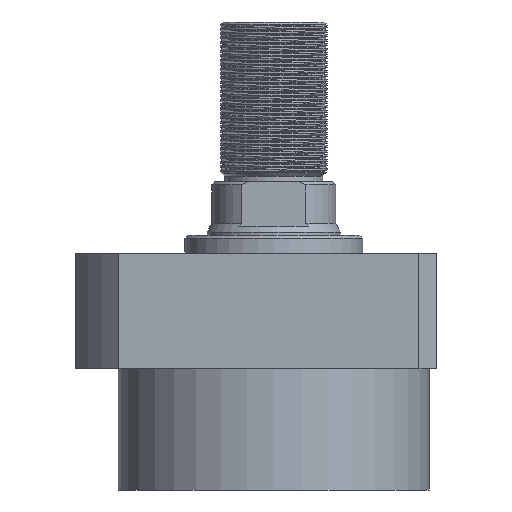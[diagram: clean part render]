
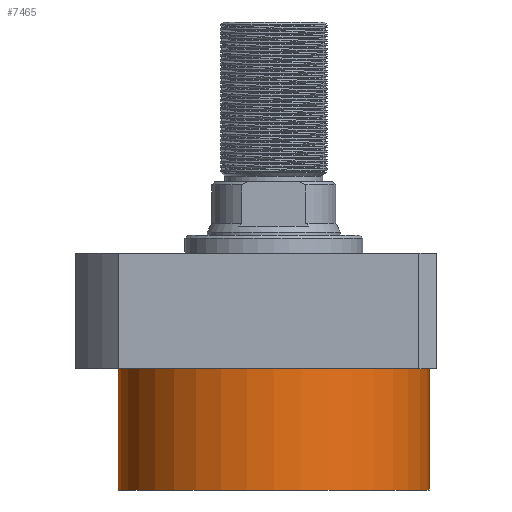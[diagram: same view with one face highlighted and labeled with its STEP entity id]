
A CAD part, front view. The second image highlights one B-rep face of the part: STEP entity #7465.
In plain terms, the highlighted cylindrical face has radius 52.5 mm (diameter 105 mm), a partial arc.
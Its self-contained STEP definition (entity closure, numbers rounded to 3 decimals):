
#124 = ORIENTED_EDGE ( 'NONE', *, *, #215, .F. ) ;
#215 = EDGE_CURVE ( 'NONE', #5201, #595, #2599, .T. ) ;
#497 = VECTOR ( 'NONE', #2406, 1000. ) ;
#545 = DIRECTION ( 'NONE',  ( 0., 0., 1. ) ) ;
#595 = VERTEX_POINT ( 'NONE', #711 ) ;
#623 = EDGE_CURVE ( 'NONE', #5201, #2450, #7223, .T. ) ;
#711 = CARTESIAN_POINT ( 'NONE',  ( -52.5, 0., -60.5 ) ) ;
#1198 = CARTESIAN_POINT ( 'NONE',  ( 52.5, 0., -60.5 ) ) ;
#1248 = CARTESIAN_POINT ( 'NONE',  ( 52.5, 0., -60.5 ) ) ;
#1276 = ORIENTED_EDGE ( 'NONE', *, *, #623, .T. ) ;
#1302 = CARTESIAN_POINT ( 'NONE',  ( 0., 0., -19.5 ) ) ;
#1544 = EDGE_LOOP ( 'NONE', ( #4661, #124, #1276, #6211 ) ) ;
#1602 = FACE_OUTER_BOUND ( 'NONE', #1544, .T. ) ;
#1919 = DIRECTION ( 'NONE',  ( 1., 0., 0. ) ) ;
#2294 = VECTOR ( 'NONE', #545, 1000. ) ;
#2406 = DIRECTION ( 'NONE',  ( 0., 0., 1. ) ) ;
#2450 = VERTEX_POINT ( 'NONE', #7473 ) ;
#2599 = CIRCLE ( 'NONE', #7534, 52.5 ) ;
#2802 = DIRECTION ( 'NONE',  ( 0., 0., 1. ) ) ;
#3234 = VERTEX_POINT ( 'NONE', #4821 ) ;
#3264 = EDGE_CURVE ( 'NONE', #595, #3234, #3981, .T. ) ;
#3443 = CARTESIAN_POINT ( 'NONE',  ( 0., 0., -60.5 ) ) ;
#3756 = AXIS2_PLACEMENT_3D ( 'NONE', #3443, #2802, #6544 ) ;
#3981 = LINE ( 'NONE', #4795, #497 ) ;
#4661 = ORIENTED_EDGE ( 'NONE', *, *, #3264, .F. ) ;
#4684 = CYLINDRICAL_SURFACE ( 'NONE', #3756, 52.5 ) ;
#4795 = CARTESIAN_POINT ( 'NONE',  ( -52.5, 0., -60.5 ) ) ;
#4821 = CARTESIAN_POINT ( 'NONE',  ( -52.5, 0., -19.5 ) ) ;
#5201 = VERTEX_POINT ( 'NONE', #1248 ) ;
#5528 = EDGE_CURVE ( 'NONE', #2450, #3234, #6851, .T. ) ;
#5621 = DIRECTION ( 'NONE',  ( 0., 0., -1. ) ) ;
#6211 = ORIENTED_EDGE ( 'NONE', *, *, #5528, .T. ) ;
#6368 = CARTESIAN_POINT ( 'NONE',  ( 0., 0., -60.5 ) ) ;
#6443 = DIRECTION ( 'NONE',  ( 0., 0., -1. ) ) ;
#6488 = DIRECTION ( 'NONE',  ( -1., 0., 0. ) ) ;
#6544 = DIRECTION ( 'NONE',  ( 1., 0., 0. ) ) ;
#6780 = AXIS2_PLACEMENT_3D ( 'NONE', #1302, #5621, #1919 ) ;
#6851 = CIRCLE ( 'NONE', #6780, 52.5 ) ;
#7223 = LINE ( 'NONE', #1198, #2294 ) ;
#7465 = ADVANCED_FACE ( 'NONE', ( #1602 ), #4684, .T. ) ;
#7473 = CARTESIAN_POINT ( 'NONE',  ( 52.5, 0., -19.5 ) ) ;
#7534 = AXIS2_PLACEMENT_3D ( 'NONE', #6368, #6443, #6488 ) ;
